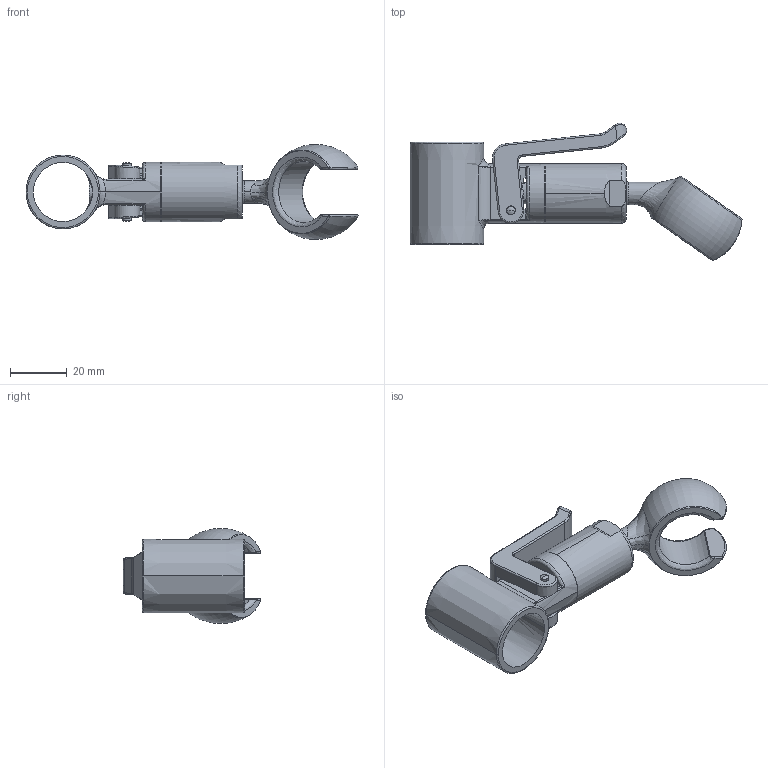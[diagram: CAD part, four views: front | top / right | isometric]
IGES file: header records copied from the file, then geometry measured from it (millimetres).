
Start section:  PTC IGES file: 508351.igs
Global section: file name: 508351.igs; native system: Creo Elements/Pro by Parametric Technology Corporation; preprocessor: 2011080; author: lff; organization: Unknown; date: 20120508.141625; units: millimetre
Bounding box: 116.87 x 48.38 x 33.42 mm (x, y, z)
Volume: 29613.5 mm3; surface area: 20697.5 mm2
Topology: 4 solids, 4 shells, 249 faces, 587 edges, 352 vertices
Faces by surface type: revolution 143, bspline 106
